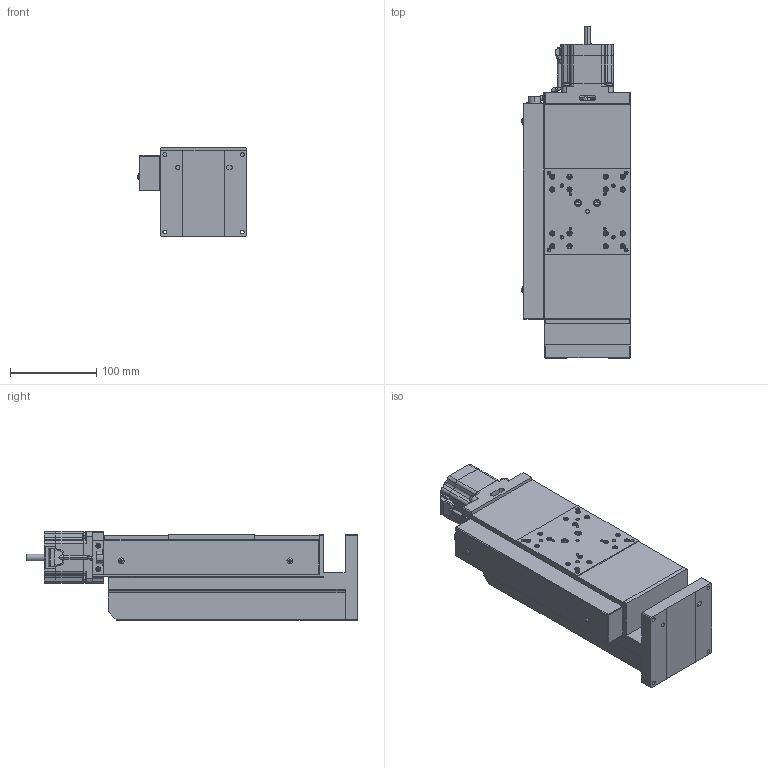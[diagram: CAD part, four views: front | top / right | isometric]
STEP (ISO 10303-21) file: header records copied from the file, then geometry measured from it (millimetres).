
FILE_DESCRIPTION (( 'STEP AP203' ), '1' );
FILE_NAME ('ZA10A-X1T01.STEP', '2019-02-25T05:51:17', ( '' ), ( '' ), 'SwSTEP 2.0', 'SolidWorks 2018', '' );
FILE_SCHEMA (( 'CONFIG_CONTROL_DESIGN' ));
Length unit declared in the file: millimetre
Products named in the file (8): base; bellows; bellows-Part-2; bellows-Part-1; ZA10A-X1T01; base-Part-2; table; base-Part-1
Assembly tree (7 placements, depth 3):
  ZA10A-X1T01
    base
      base-Part-1
      base-Part-2
    bellows
      bellows-Part-1
      bellows-Part-2
    table
Bounding box: 126.89 x 385.5 x 103 mm (x, y, z)
Volume: 2048058.1 mm3; surface area: 391265.8 mm2
Topology: 5 solids, 5 shells, 2811 faces, 6743 edges, 4029 vertices
Faces by surface type: plane 1638, cylinder 661, cone 454, bspline 20, sphere 20, torus 18
Entity records: 81329 total; most frequent: CARTESIAN_POINT 14593, DIRECTION 14370, ORIENTED_EDGE 13166, EDGE_CURVE 6583, AXIS2_PLACEMENT_3D 5084, VECTOR 4202, LINE 4202, VERTEX_POINT 4029
